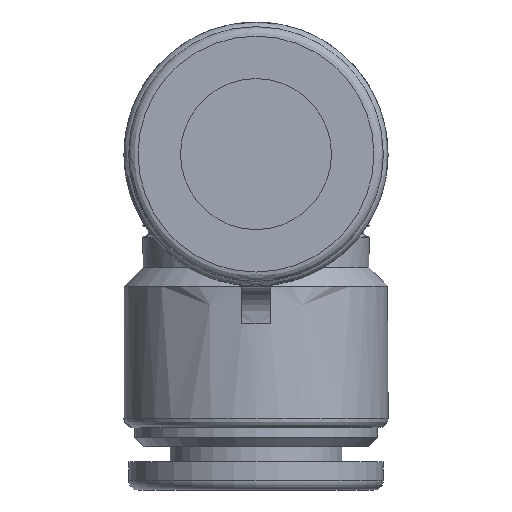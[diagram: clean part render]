
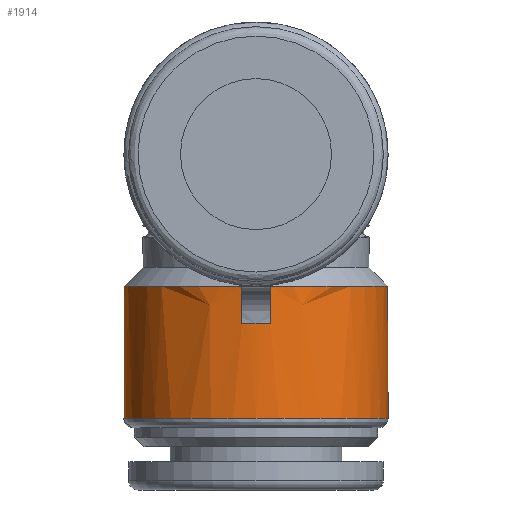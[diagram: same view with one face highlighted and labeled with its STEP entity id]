
A CAD part, left-side view. The second image highlights one B-rep face of the part: STEP entity #1914.
In plain terms, the highlighted free-form (B-spline) face has degree [1, 2] with [2, 9] control points.
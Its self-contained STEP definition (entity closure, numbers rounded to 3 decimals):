
#378=CARTESIAN_POINT('',(-7.,0.0,-9.));
#379=VERTEX_POINT('',#378);
#380=CARTESIAN_POINT('',(-6.96,0.75,-9.));
#381=VERTEX_POINT('',#380);
#382=CARTESIAN_POINT('',(0.,0.0,-9.));
#383=DIRECTION('',(0.0,0.0,-1.0));
#384=DIRECTION('',(1.0,0.0,0.0));
#385=AXIS2_PLACEMENT_3D('',#382,#383,#384);
#386=CIRCLE('',#385,7.);
#387=EDGE_CURVE('',#379,#381,#386,.T.);
#411=CARTESIAN_POINT('',(-6.96,-0.75,-9.));
#412=VERTEX_POINT('',#411);
#413=CARTESIAN_POINT('',(0.,0.0,-9.));
#414=DIRECTION('',(0.0,0.0,-1.0));
#415=DIRECTION('',(1.0,0.0,0.0));
#416=AXIS2_PLACEMENT_3D('',#413,#414,#415);
#417=CIRCLE('',#416,7.);
#418=EDGE_CURVE('',#412,#379,#417,.T.);
#452=CARTESIAN_POINT('',(-6.96,-0.75,-7.));
#453=VERTEX_POINT('',#452);
#454=CARTESIAN_POINT('',(-6.96,-0.75,-7.));
#455=DIRECTION('',(0.0,0.0,-1.0));
#456=VECTOR('',#455,2.0);
#457=LINE('',#454,#456);
#458=EDGE_CURVE('',#453,#412,#457,.T.);
#601=CARTESIAN_POINT('',(-6.96,0.75,-7.));
#602=VERTEX_POINT('',#601);
#616=CARTESIAN_POINT('',(-6.96,0.75,-9.));
#617=DIRECTION('',(0.0,0.0,1.0));
#618=VECTOR('',#617,2.0);
#619=LINE('',#616,#618);
#620=EDGE_CURVE('',#381,#602,#619,.T.);
#1724=CARTESIAN_POINT('',(0.,7.,-14.));
#1725=VERTEX_POINT('',#1724);
#1726=CARTESIAN_POINT('',(0.,0.0,-14.));
#1727=DIRECTION('',(0.0,0.0,1.0));
#1728=DIRECTION('',(-1.0,0.0,0.0));
#1729=AXIS2_PLACEMENT_3D('',#1726,#1727,#1728);
#1730=CIRCLE('',#1729,7.);
#1731=EDGE_CURVE('',#1725,#1725,#1730,.T.);
#1765=CARTESIAN_POINT('',(6.96,-0.75,-7.));
#1766=VERTEX_POINT('',#1765);
#1767=CARTESIAN_POINT('',(0.,0.0,-7.));
#1768=DIRECTION('',(0.0,0.0,1.0));
#1769=DIRECTION('',(1.0,0.0,0.0));
#1770=AXIS2_PLACEMENT_3D('',#1767,#1768,#1769);
#1771=CIRCLE('',#1770,7.);
#1772=EDGE_CURVE('',#453,#1766,#1771,.T.);
#1819=CARTESIAN_POINT('',(6.96,0.75,-7.));
#1820=VERTEX_POINT('',#1819);
#1834=CARTESIAN_POINT('',(0.,0.0,-7.));
#1835=DIRECTION('',(0.0,0.0,-1.0));
#1836=DIRECTION('',(-1.0,0.0,0.0));
#1837=AXIS2_PLACEMENT_3D('',#1834,#1835,#1836);
#1838=CIRCLE('',#1837,7.);
#1839=EDGE_CURVE('',#602,#1820,#1838,.T.);
#1845=CARTESIAN_POINT('',(7.,0.,-7.));
#1846=CARTESIAN_POINT('',(7.,0.,-14.));
#1847=CARTESIAN_POINT('',(7.,7.,-7.));
#1848=CARTESIAN_POINT('',(7.,7.,-14.));
#1849=CARTESIAN_POINT('',(0.,7.0,-7.));
#1850=CARTESIAN_POINT('',(0.,7.,-14.));
#1851=CARTESIAN_POINT('',(-7.,7.,-7.));
#1852=CARTESIAN_POINT('',(-7.,7.,-14.));
#1853=CARTESIAN_POINT('',(-7.,0.,-7.));
#1854=CARTESIAN_POINT('',(-7.,0.,-14.));
#1855=CARTESIAN_POINT('',(-7.,-7.,-7.));
#1856=CARTESIAN_POINT('',(-7.,-7.,-14.));
#1857=CARTESIAN_POINT('',(0.,-7.0,-7.));
#1858=CARTESIAN_POINT('',(0.,-7.,-14.));
#1859=CARTESIAN_POINT('',(7.,-7.,-7.));
#1860=CARTESIAN_POINT('',(7.,-7.,-14.));
#1861=CARTESIAN_POINT('',(7.,0.,-7.));
#1862=CARTESIAN_POINT('',(7.,0.,-14.));
#1870=(BOUNDED_SURFACE()B_SPLINE_SURFACE(1,2,((#1845,#1847,#1849,#1851,#1853,#1855,#1857,#1859,#1861),(#1846,#1848,#1850,#1852,#1854,#1856,#1858,#1860,#1862)),.UNSPECIFIED.,.F.,.T.,.U.)B_SPLINE_SURFACE_WITH_KNOTS((2,2),(3,2,2,2,3),(0.143,1.143),(0.0,10.996,21.991,32.987,43.982),.UNSPECIFIED.)GEOMETRIC_REPRESENTATION_ITEM()RATIONAL_B_SPLINE_SURFACE(((1.0,0.707,1.0,0.707,1.0,0.707,1.0,0.707,1.0),(1.0,0.707,1.0,0.707,1.0,0.707,1.0,0.707,1.0)))REPRESENTATION_ITEM('')SURFACE());
#1871=ORIENTED_EDGE('',*,*,#1839,.T.);
#1872=CARTESIAN_POINT('',(6.96,0.75,-9.));
#1873=VERTEX_POINT('',#1872);
#1874=CARTESIAN_POINT('',(6.96,0.75,-9.));
#1875=DIRECTION('',(0.0,0.0,1.0));
#1876=VECTOR('',#1875,2.0);
#1877=LINE('',#1874,#1876);
#1878=EDGE_CURVE('',#1873,#1820,#1877,.T.);
#1879=ORIENTED_EDGE('',*,*,#1878,.F.);
#1880=CARTESIAN_POINT('',(7.,0.0,-9.));
#1881=VERTEX_POINT('',#1880);
#1882=CARTESIAN_POINT('',(0.,0.0,-9.));
#1883=DIRECTION('',(0.0,0.0,1.0));
#1884=DIRECTION('',(-1.0,0.0,0.0));
#1885=AXIS2_PLACEMENT_3D('',#1882,#1883,#1884);
#1886=CIRCLE('',#1885,7.);
#1887=EDGE_CURVE('',#1881,#1873,#1886,.T.);
#1888=ORIENTED_EDGE('',*,*,#1887,.F.);
#1889=CARTESIAN_POINT('',(6.96,-0.75,-9.));
#1890=VERTEX_POINT('',#1889);
#1891=CARTESIAN_POINT('',(0.,0.0,-9.));
#1892=DIRECTION('',(0.0,0.0,1.0));
#1893=DIRECTION('',(-1.0,0.0,0.0));
#1894=AXIS2_PLACEMENT_3D('',#1891,#1892,#1893);
#1895=CIRCLE('',#1894,7.);
#1896=EDGE_CURVE('',#1890,#1881,#1895,.T.);
#1897=ORIENTED_EDGE('',*,*,#1896,.F.);
#1898=CARTESIAN_POINT('',(6.96,-0.75,-7.));
#1899=DIRECTION('',(0.0,0.0,-1.0));
#1900=VECTOR('',#1899,2.0);
#1901=LINE('',#1898,#1900);
#1902=EDGE_CURVE('',#1766,#1890,#1901,.T.);
#1903=ORIENTED_EDGE('',*,*,#1902,.F.);
#1904=ORIENTED_EDGE('',*,*,#1772,.F.);
#1905=ORIENTED_EDGE('',*,*,#458,.T.);
#1906=ORIENTED_EDGE('',*,*,#418,.T.);
#1907=ORIENTED_EDGE('',*,*,#387,.T.);
#1908=ORIENTED_EDGE('',*,*,#620,.T.);
#1909=EDGE_LOOP('',(#1871,#1879,#1888,#1897,#1903,#1904,#1905,#1906,#1907,#1908));
#1910=FACE_OUTER_BOUND('',#1909,.T.);
#1911=ORIENTED_EDGE('',*,*,#1731,.T.);
#1912=EDGE_LOOP('',(#1911));
#1913=FACE_BOUND('',#1912,.T.);
#1914=ADVANCED_FACE('',(#1910,#1913),#1870,.T.);
